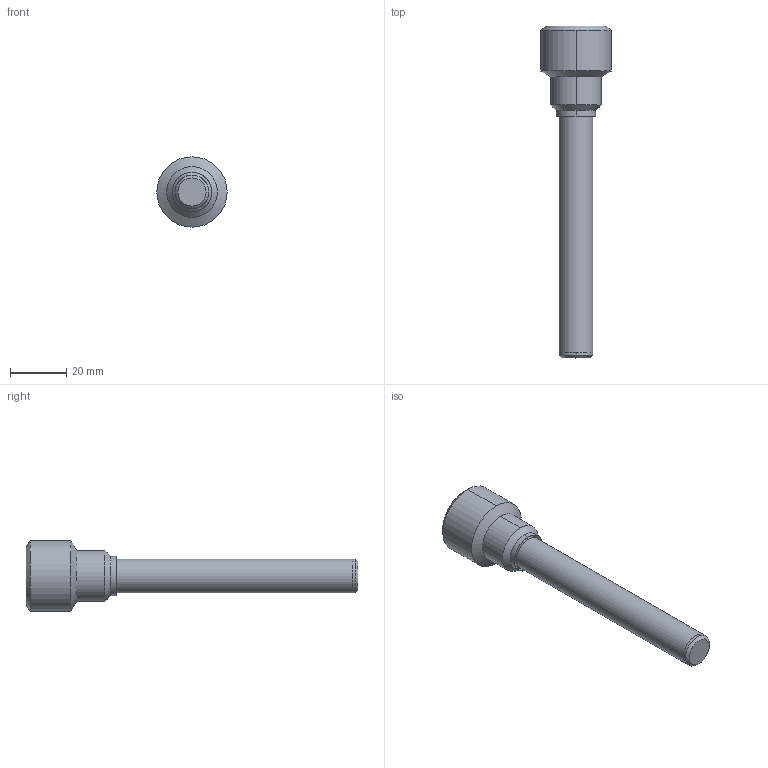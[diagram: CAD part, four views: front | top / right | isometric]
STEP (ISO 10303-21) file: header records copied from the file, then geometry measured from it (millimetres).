
FILE_DESCRIPTION(('TFLEX Exchange Step'),'2;1');
FILE_NAME('_Гильза ГЗ202-d6-P16-(M16)-H-M01.stp', '2020-10-06T20:32:19+05:00',('Алексей'),('Unknown organisation'),'TFLEX Exchange 2019.1','T-FLEX CAD','Unknown authorisation');
FILE_SCHEMA( ('AUTOMOTIVE_DESIGN { 1 0 10303 214 1 1 1 1 }') );
Length unit declared in the file: millimetre
Products named in the file (4): Труба Т-12х1-L-01; Заглушка З-12х1-01; Штуцер Ш-16х1.5-02; _Гильза ГЗ202-d6-P16-(M16)-H-M01
Assembly tree (3 placements, depth 2):
  _Гильза ГЗ202-d6-P16-(M16)-H-M01
    Труба Т-12х1-L-01
    Заглушка З-12х1-01
    Штуцер Ш-16х1.5-02
Bounding box: 25 x 118 x 25 mm (x, y, z)
Volume: 11018.2 mm3; surface area: 10591 mm2
Topology: 3 solids, 3 shells, 33 faces, 69 edges, 40 vertices
Faces by surface type: cylinder 18, plane 8, cone 7
Full cylindrical faces by diameter (mm): 10 x1, 12 x1
Entity records: 1000 total; most frequent: DIRECTION 191, CARTESIAN_POINT 153, ORIENTED_EDGE 142, AXIS2_PLACEMENT_3D 80, EDGE_CURVE 71, VERTEX_POINT 42, CIRCLE 40, EDGE_LOOP 35
